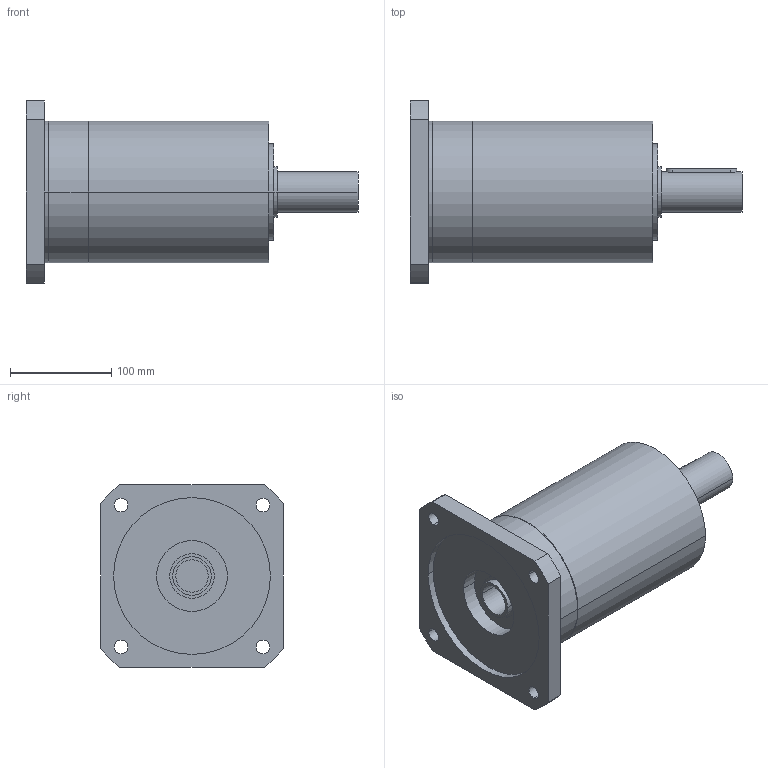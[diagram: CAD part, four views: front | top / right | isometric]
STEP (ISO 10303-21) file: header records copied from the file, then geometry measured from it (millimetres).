
FILE_DESCRIPTION(('CoCreate Modeling STEP Export'),'2;1');
FILE_NAME('GPR150_ig-9-12-16-20-28-35_40_B14_32_P11.stp','2014-08-19T17:04:04',(''),(''),'CoCreate Modeling STEP processor for AP214 (Solid Model)','CoCreate Modeling 16.00C 25-Feb-2009 (C) Parametric Technology GmbH','');
FILE_SCHEMA(('AUTOMOTIVE_DESIGN { 1 0 10303 214 1 1 1 1 }'));
Length unit declared in the file: millimetre
Products named in the file (2): GPR150_ig-9-12-16-20-28-35_40_B14_32_P11
Assembly tree (1 placements, depth 2):
  GPR150_ig-9-12-16-20-28-35_40_B14_32_P11
    GPR150_ig-9-12-16-20-28-35_40_B14_32_P11
Bounding box: 328 x 180 x 180 mm (x, y, z)
Volume: 3866538.4 mm3; surface area: 208676.4 mm2
Topology: 1 solids, 1 shells, 76 faces, 202 edges, 142 vertices
Faces by surface type: cylinder 46, plane 24, cone 6
Entity records: 2103 total; most frequent: CARTESIAN_POINT 406, ORIENTED_EDGE 400, DIRECTION 282, EDGE_CURVE 200, VERTEX_POINT 142, AXIS2_PLACEMENT_3D 106, EDGE_LOOP 100, FACE_OUTER_BOUND 76
